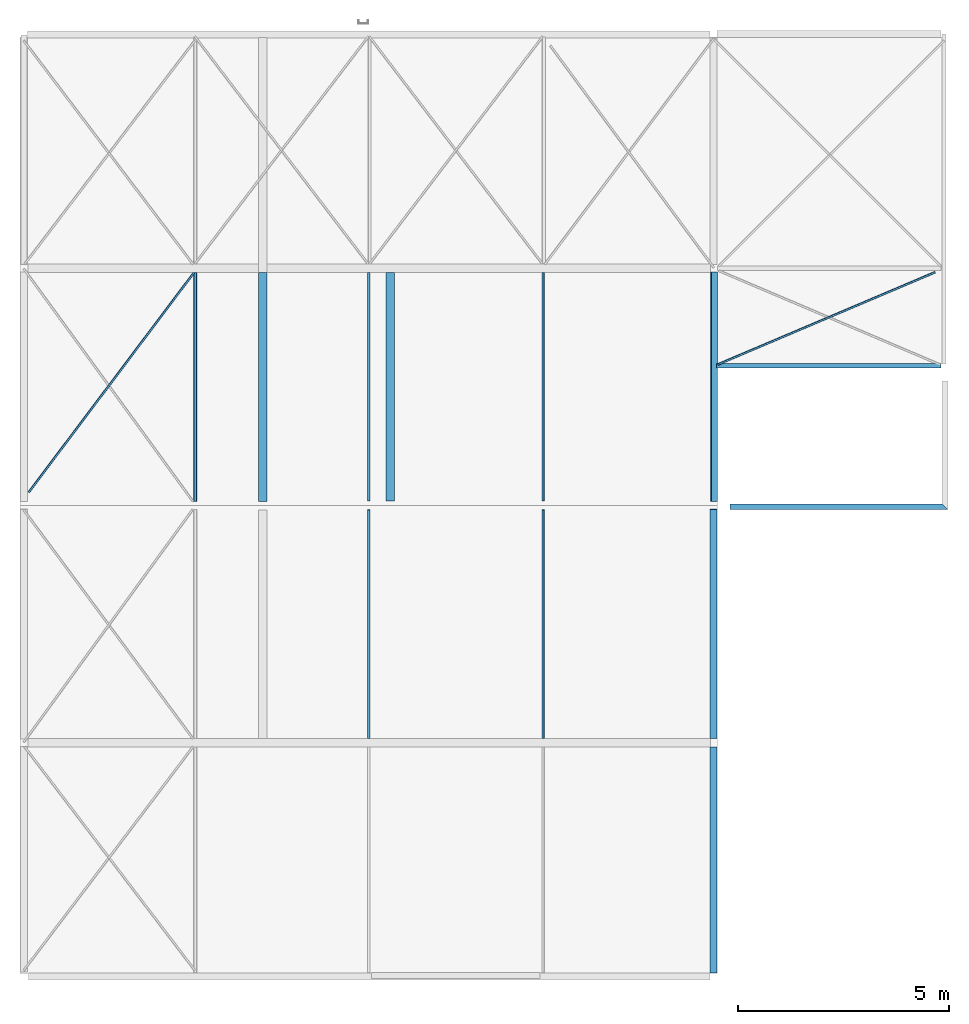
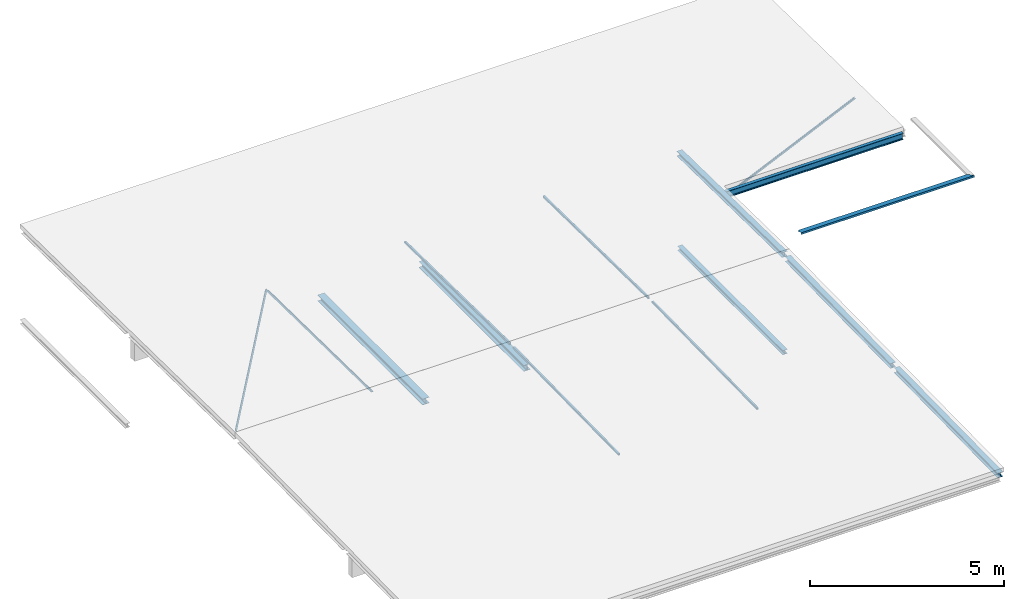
# One storey, part 2 of 5: 15 beams.
"""IFC2X3 building model written with IfcOpenShell, lengths in millimetres."""

from ifc_helpers import new_model, entity, si_unit, converted_unit, derived_unit, direction, frame, frame_2d, origin, place, context, subcontext, project, spatial, polyline, circle_curve, parameter, trimmed, segment, composite_curve, i_section, outline, extrude, clip, halfspace, material, type_object, element, save


model = new_model("IFC2X3")

# Units and contexts
model_context = context("Model", 3, precision=0.01, world=origin(), true_north=direction((6.123031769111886e-17, 1.0)))
plan_context = context("Plan", 3, precision=0.01, world=origin(), true_north=direction((6.123031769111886e-17, 1.0)))
body_context = subcontext(model_context, "Body", "Model", "MODEL_VIEW")
ifc_project = project(units=[si_unit("LENGTHUNIT", "METRE", prefix="MILLI"), si_unit("AREAUNIT", "SQUARE_METRE"), si_unit("VOLUMEUNIT", "CUBIC_METRE"), converted_unit("PLANEANGLEUNIT", "DEGREE", entity("IfcPlaneAngleMeasure", 0.017453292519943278), si_unit("PLANEANGLEUNIT", "RADIAN"), dimensions=[0, 0, 0, 0, 0, 0, 0]), si_unit("MASSUNIT", "GRAM", prefix="KILO"), derived_unit("MASSDENSITYUNIT", [(si_unit("MASSUNIT", "GRAM", prefix="KILO"), 1), (si_unit("LENGTHUNIT", "METRE"), -3)]), derived_unit("IONCONCENTRATIONUNIT", [(si_unit("MASSUNIT", "GRAM", prefix="KILO"), 1), (si_unit("LENGTHUNIT", "METRE"), -3)]), derived_unit("MOMENTOFINERTIAUNIT", [(si_unit("LENGTHUNIT", "METRE"), 4)]), si_unit("TIMEUNIT", "SECOND"), si_unit("FREQUENCYUNIT", "HERTZ"), si_unit("THERMODYNAMICTEMPERATUREUNIT", "DEGREE_CELSIUS"), derived_unit("THERMALTRANSMITTANCEUNIT", [(si_unit("MASSUNIT", "GRAM", prefix="KILO"), 1), (si_unit("THERMODYNAMICTEMPERATUREUNIT", "KELVIN"), -1), (si_unit("TIMEUNIT", "SECOND"), -3)]), derived_unit("THERMALCONDUCTANCEUNIT", [(si_unit("MASSUNIT", "GRAM", prefix="KILO"), 1), (si_unit("THERMODYNAMICTEMPERATUREUNIT", "KELVIN"), -1), (si_unit("TIMEUNIT", "SECOND"), -3), (si_unit("LENGTHUNIT", "METRE"), 1)]), derived_unit("VOLUMETRICFLOWRATEUNIT", [(si_unit("LENGTHUNIT", "METRE", prefix="DECI"), 3), (si_unit("TIMEUNIT", "SECOND"), -1)]), derived_unit("MASSFLOWRATEUNIT", [(si_unit("MASSUNIT", "GRAM", prefix="KILO"), 1), (si_unit("TIMEUNIT", "SECOND"), -1)]), derived_unit("ROTATIONALFREQUENCYUNIT", [(si_unit("TIMEUNIT", "SECOND"), -1)]), si_unit("ELECTRICCURRENTUNIT", "AMPERE"), si_unit("ELECTRICVOLTAGEUNIT", "VOLT"), si_unit("POWERUNIT", "WATT"), si_unit("FORCEUNIT", "NEWTON", prefix="KILO"), si_unit("ILLUMINANCEUNIT", "LUX"), si_unit("LUMINOUSFLUXUNIT", "LUMEN"), si_unit("LUMINOUSINTENSITYUNIT", "CANDELA"), si_unit("ENERGYUNIT", "JOULE"), derived_unit("USERDEFINED", [(si_unit("MASSUNIT", "GRAM", prefix="KILO"), -1), (si_unit("LENGTHUNIT", "METRE"), -2), (si_unit("TIMEUNIT", "SECOND"), 3), (si_unit("LUMINOUSFLUXUNIT", "LUMEN"), 1)]), derived_unit("USERDEFINED", [(si_unit("MASSUNIT", "GRAM", prefix="KILO"), 1), (si_unit("TIMEUNIT", "SECOND"), -3), (si_unit("LENGTHUNIT", "METRE"), 3), (si_unit("ELECTRICCURRENTUNIT", "AMPERE"), -2)]), derived_unit("SOUNDPOWERUNIT", [(si_unit("MASSUNIT", "GRAM", prefix="KILO"), 1), (si_unit("TIMEUNIT", "SECOND"), -3), (si_unit("LENGTHUNIT", "METRE"), 2)]), derived_unit("SOUNDPRESSUREUNIT", [(si_unit("MASSUNIT", "GRAM", prefix="KILO"), 1), (si_unit("LENGTHUNIT", "METRE"), -1), (si_unit("TIMEUNIT", "SECOND"), -2)]), derived_unit("LINEARVELOCITYUNIT", [(si_unit("LENGTHUNIT", "METRE"), 1), (si_unit("TIMEUNIT", "SECOND"), -1)]), si_unit("PRESSUREUNIT", "PASCAL"), derived_unit("USERDEFINED", [(si_unit("MASSUNIT", "GRAM", prefix="KILO"), 1), (si_unit("LENGTHUNIT", "METRE"), -2), (si_unit("TIMEUNIT", "SECOND"), -2)]), derived_unit("LINEARFORCEUNIT", [(si_unit("MASSUNIT", "GRAM", prefix="KILO"), 1), (si_unit("TIMEUNIT", "SECOND"), -2)]), derived_unit("PLANARFORCEUNIT", [(si_unit("MASSUNIT", "GRAM", prefix="KILO"), 1), (si_unit("LENGTHUNIT", "METRE"), -1), (si_unit("TIMEUNIT", "SECOND"), -2)]), derived_unit("SPECIFICHEATCAPACITYUNIT", [(si_unit("THERMODYNAMICTEMPERATUREUNIT", "KELVIN"), -1), (si_unit("LENGTHUNIT", "METRE"), 2), (si_unit("TIMEUNIT", "SECOND"), -2)]), derived_unit("HEATFLUXDENSITYUNIT", [(si_unit("MASSUNIT", "GRAM", prefix="KILO"), 1), (si_unit("TIMEUNIT", "SECOND"), -3)]), derived_unit("HEATINGVALUEUNIT", [(si_unit("LENGTHUNIT", "METRE"), 2), (si_unit("TIMEUNIT", "SECOND"), -2)]), derived_unit("VAPORPERMEABILITYUNIT", [(si_unit("LENGTHUNIT", "METRE"), -1), (si_unit("TIMEUNIT", "SECOND"), 1)]), derived_unit("DYNAMICVISCOSITYUNIT", [(si_unit("MASSUNIT", "GRAM", prefix="KILO"), 1), (si_unit("TIMEUNIT", "SECOND"), -1), (si_unit("LENGTHUNIT", "METRE"), -1)]), derived_unit("THERMALEXPANSIONCOEFFICIENTUNIT", [(si_unit("THERMODYNAMICTEMPERATUREUNIT", "KELVIN"), -1)]), derived_unit("MODULUSOFELASTICITYUNIT", [(si_unit("MASSUNIT", "GRAM", prefix="KILO"), 1), (si_unit("LENGTHUNIT", "METRE"), -1), (si_unit("TIMEUNIT", "SECOND"), -2)]), derived_unit("ISOTHERMALMOISTURECAPACITYUNIT", [(si_unit("MASSUNIT", "GRAM", prefix="KILO"), -1), (si_unit("LENGTHUNIT", "METRE"), 3)]), derived_unit("MOISTUREDIFFUSIVITYUNIT", [(si_unit("TIMEUNIT", "SECOND"), -1), (si_unit("LENGTHUNIT", "METRE"), 2)]), derived_unit("MASSPERLENGTHUNIT", [(si_unit("MASSUNIT", "GRAM", prefix="KILO"), 1), (si_unit("LENGTHUNIT", "METRE"), -1)]), derived_unit("THERMALRESISTANCEUNIT", [(si_unit("MASSUNIT", "GRAM", prefix="KILO"), -1), (si_unit("TIMEUNIT", "SECOND"), 3), (si_unit("THERMODYNAMICTEMPERATUREUNIT", "KELVIN"), 1)]), derived_unit("ACCELERATIONUNIT", [(si_unit("LENGTHUNIT", "METRE"), 1), (si_unit("TIMEUNIT", "SECOND"), -2)]), derived_unit("ANGULARVELOCITYUNIT", [(si_unit("TIMEUNIT", "SECOND"), -1), (si_unit("PLANEANGLEUNIT", "RADIAN"), 1)]), derived_unit("LINEARSTIFFNESSUNIT", [(si_unit("MASSUNIT", "GRAM", prefix="KILO"), 1), (si_unit("TIMEUNIT", "SECOND"), -2)]), derived_unit("WARPINGCONSTANTUNIT", [(si_unit("LENGTHUNIT", "METRE"), 6)]), derived_unit("LINEARMOMENTUNIT", [(si_unit("MASSUNIT", "GRAM", prefix="KILO"), 1), (si_unit("LENGTHUNIT", "METRE"), 1), (si_unit("TIMEUNIT", "SECOND"), -2)]), derived_unit("TORQUEUNIT", [(si_unit("MASSUNIT", "GRAM", prefix="KILO"), 1), (si_unit("LENGTHUNIT", "METRE"), 2), (si_unit("TIMEUNIT", "SECOND"), -2)])], contexts=[model_context, plan_context])

# Site, building, storey
site_placement = place(None, origin())
site = spatial("IfcSite", under=ifc_project, at=site_placement, Name="Default", CompositionType="ELEMENT")
building_placement = place(site_placement, origin())
building = spatial("IfcBuilding", under=site, at=building_placement, CompositionType="ELEMENT")
storey_placement = place(building_placement, frame((0.0, 0.0, 6700.0)))
storey = spatial("IfcBuildingStorey", under=building, at=storey_placement, Name="02 tweede verdieping", CompositionType="ELEMENT", Elevation=6700.000000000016)

# Beams
ifc_material_1 = material(Name="constructiestaal S235")
beam_type_1 = type_object("IfcBeamType", Name="28_SF_LIB_HEA ligger_dw:HE160A (S235)", PredefinedType="NOTDEFINED")
beam_1_placement = place(storey_placement, frame((50506.19293735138, 27593.86409632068, 175.87025940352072), z_axis=(0.0, 0.01570731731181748, 0.9998766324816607), x_axis=(0.0, 0.9998766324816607, -0.01570731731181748)))
element("IfcBeam", 1, at=beam_1_placement, inside=storey, type_object=beam_type_1, material=ifc_material_1, Name="28_SF_LIB_HEA ligger_dw:HE160A (S235)", ObjectType="28_SF_LIB_HEA ligger_dw:HE160A (S235)", context=body_context, shape_type="SweptSolid", body=[
    extrude(i_section(OverallWidth=160.00000000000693, OverallDepth=152.000000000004, WebThickness=5.999999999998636, FlangeThickness=9.00000000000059, FilletRadius=14.999999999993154, at=frame_2d((5.400124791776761e-13, 8.661515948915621e-12), x_axis=(0.0, 1.0))), frame((0.0, 0.0, -76.0), z_axis=(1.0, 0.0, 0.0), x_axis=(0.0, 0.0, -1.0)), (0.0, 0.0, 1.0), 5430.669968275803),
])
beam_2_placement = place(storey_placement, frame((50491.19293735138, 21971.47658408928, 90.7260955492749), z_axis=(0.0, -0.01570731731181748, 0.9998766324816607), x_axis=(0.0, 0.9998766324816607, 0.01570731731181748)))
element("IfcBeam", 2, at=beam_2_placement, inside=storey, type_object=beam_type_1, material=ifc_material_1, Name="28_SF_LIB_HEA ligger_dw:HE160A (S235)", ObjectType="28_SF_LIB_HEA ligger_dw:HE160A (S235)", context=body_context, shape_type="SweptSolid", body=[
    extrude(i_section(OverallWidth=160.00000000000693, OverallDepth=152.00000000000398, WebThickness=5.999999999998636, FlangeThickness=9.00000000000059, FilletRadius=14.99999999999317, at=frame_2d((2.1600499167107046e-12, 8.661515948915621e-12), x_axis=(0.0, 1.0))), frame((0.0, 0.0, -76.0), z_axis=(1.0, 0.0, 0.0), x_axis=(0.0, 0.0, -1.0)), (0.0, 0.0, 1.0), 5430.669968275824),
])
beam_3_placement = place(storey_placement, frame((50491.192937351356, 16441.47670747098, 3.8539155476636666), z_axis=(0.0, -0.01570731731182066, 0.9998766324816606), x_axis=(0.0, 0.9998766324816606, 0.01570731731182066)))
element("IfcBeam", 3, at=beam_3_placement, inside=storey, type_object=beam_type_1, material=ifc_material_1, Name="28_SF_LIB_HEA ligger_dw:HE160A (S235)", ObjectType="28_SF_LIB_HEA ligger_dw:HE160A (S235)", context=body_context, shape_type="SweptSolid", body=[
    extrude(i_section(OverallWidth=160.00000000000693, OverallDepth=152.00000000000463, WebThickness=5.999999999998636, FlangeThickness=9.000000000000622, FilletRadius=14.999999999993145, at=frame_2d((1.6200374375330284e-12, 1.7330137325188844e-11), x_axis=(0.0, 1.0))), frame((-18.952749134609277, 0.0, -76.0), z_axis=(1.0, 0.0, 0.0), x_axis=(0.0, 0.0, -1.0)), (0.0, 0.0, 1.0), 5349.610255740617),
])
beam_type_2 = type_object("IfcBeamType", Name="28_SF_LIB_L ligger gelijkbenig_dw:L80x80x6 (S235)", PredefinedType="NOTDEFINED")
beam_4_placement = place(storey_placement, frame((38196.192937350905, 27594.271521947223, 181.86459934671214), z_axis=(0.0, 0.015707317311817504, 0.9998766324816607), x_axis=(0.0, 0.9998766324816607, -0.015707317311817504)))
element("IfcBeam", 4, at=beam_4_placement, inside=storey, type_object=beam_type_2, material=ifc_material_1, Name="28_SF_LIB_L ligger gelijkbenig_dw:L80x80x6 (S235)", ObjectType="28_SF_LIB_L ligger gelijkbenig_dw:L80x80x6 (S235)", context=body_context, shape_type="SweptSolid", body=[
    extrude(outline(composite_curve([segment(polyline([(28.333333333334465, -50.66666666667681), (29.333333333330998, -50.66666666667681)]), True, "CONTINUOUS"), segment(polyline([(29.333333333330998, -50.66666666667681), (29.333333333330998, 29.333333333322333)]), True, "CONTINUOUS"), segment(polyline([(29.333333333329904, 29.333333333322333), (-50.66666666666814, 29.333333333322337)]), True, "CONTINUOUS"), segment(polyline([(-50.66666666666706, 29.333333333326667), (-50.66666666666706, 28.333333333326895)]), True, "CONTINUOUS"), segment(trimmed(circle_curve(frame_2d((-45.66666666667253, 28.333333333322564), x_axis=(-1.0, 0.0)), 4.999999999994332), [parameter(0.0)], [parameter(90.00000000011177)], True, "PARAMETER"), True, "CONTINUOUS"), segment(polyline([(-45.66666666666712, 23.333333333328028), (13.333333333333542, 23.333333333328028)]), True, "CONTINUOUS"), segment(trimmed(circle_curve(frame_2d((13.333333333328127, 13.33333333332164), x_axis=(0.0, 1.0)), 10.000000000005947), [parameter(270.00000000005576)], [parameter(0.0)], True, "PARAMETER"), False, "CONTINUOUS"), segment(polyline([(23.333333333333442, 13.333333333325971), (23.333333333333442, -45.66666666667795)]), True, "CONTINUOUS"), segment(trimmed(circle_curve(frame_2d((28.33333333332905, -45.66666666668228), x_axis=(-1.0, 0.0)), 4.999999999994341), [parameter(0.0)], [parameter(90.00000000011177)], True, "PARAMETER"), True, "CONTINUOUS")], self_intersect=False)), frame((0.0, -6.793418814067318, -83.21666666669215), z_axis=(1.0, 0.0, 0.0), x_axis=(0.0, 0.0, -1.0)), (0.0, 0.0, 1.0), 5420.0),
])
ifc_material_2 = material(Name="constructiestaal S275")
beam_type_3 = type_object("IfcBeamType", Name="28_SF_LIB_koker ligger_dw:K60x60x6 (S275)", PredefinedType="NOTDEFINED")
beam_5_placement = place(storey_placement, frame((42326.192937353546, 27594.271521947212, 181.86459934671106), z_axis=(0.0, 0.01570731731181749, 0.9998766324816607), x_axis=(0.0, 0.9998766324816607, -0.01570731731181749)))
element("IfcBeam", 5, at=beam_5_placement, inside=storey, type_object=beam_type_3, material=ifc_material_2, Name="28_SF_LIB_koker ligger_dw:K60x60x6 (S275)", ObjectType="28_SF_LIB_koker ligger_dw:K60x60x6 (S275)", context=body_context, shape_type="SweptSolid", body=[
    extrude(outline(composite_curve([segment(polyline([(-22.50000000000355, -30.0), (22.499999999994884, -30.0)]), True, "CONTINUOUS"), segment(trimmed(circle_curve(frame_2d((22.499999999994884, -22.500000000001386), x_axis=(1.0, 0.0)), 7.5), [parameter(269.9999999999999)], [parameter(0.0)], True, "PARAMETER"), True, "CONTINUOUS"), segment(polyline([(30.0, -22.500000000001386), (30.0, 22.49999999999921)]), True, "CONTINUOUS"), segment(trimmed(circle_curve(frame_2d((22.499999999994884, 22.49999999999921), x_axis=(0.0, 1.0)), 7.5), [parameter(269.9999999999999)], [parameter(359.99999999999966)], True, "PARAMETER"), True, "CONTINUOUS"), segment(polyline([(22.499999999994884, 30.0), (-22.50000000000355, 30.0)]), True, "CONTINUOUS"), segment(trimmed(circle_curve(frame_2d((-22.50000000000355, 22.49999999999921), x_axis=(-1.0, 0.0)), 7.5), [parameter(269.9999999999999)], [parameter(359.99999999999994)], True, "PARAMETER"), True, "CONTINUOUS"), segment(polyline([(-30.0, 22.49999999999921), (-30.0, -22.500000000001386)]), True, "CONTINUOUS"), segment(trimmed(circle_curve(frame_2d((-22.50000000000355, -22.500000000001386), x_axis=(0.0, -1.0)), 7.5), [parameter(269.9999999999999)], [parameter(359.99999999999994)], True, "PARAMETER"), True, "CONTINUOUS")], self_intersect=False), holes=[composite_curve([segment(trimmed(circle_curve(frame_2d((-18.0, -18.0), x_axis=(-1.0, 0.0)), 6.0), [parameter(5.088887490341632e-14)], [parameter(90.00000000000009)], True, "PARAMETER"), False, "CONTINUOUS"), segment(polyline([(-24.0, -18.0), (-24.0, 18.0)]), True, "CONTINUOUS"), segment(trimmed(circle_curve(frame_2d((-18.0, 18.0), x_axis=(0.0, 1.0)), 6.0), [parameter(0.0)], [parameter(90.00000000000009)], True, "PARAMETER"), False, "CONTINUOUS"), segment(polyline([(-18.0, 24.0), (18.0, 24.0)]), True, "CONTINUOUS"), segment(trimmed(circle_curve(frame_2d((18.0, 18.0), x_axis=(1.0, 0.0)), 6.0), [parameter(0.0)], [parameter(90.00000000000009)], True, "PARAMETER"), False, "CONTINUOUS"), segment(polyline([(24.0, 18.0), (24.0, -18.0)]), True, "CONTINUOUS"), segment(trimmed(circle_curve(frame_2d((18.0, -18.0), x_axis=(0.0, -1.0)), 6.0), [parameter(5.088887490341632e-14)], [parameter(90.00000000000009)], True, "PARAMETER"), False, "CONTINUOUS"), segment(polyline([(18.0, -24.0), (-18.0, -24.0)]), True, "CONTINUOUS")], self_intersect=False)]), frame((0.0, -0.01008548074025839, -30.0), z_axis=(1.0, 0.0, 0.0), x_axis=(0.0, -1.0, 0.0)), (0.0, 0.0, 1.0), 5419.999999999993),
])
beam_6_placement = place(storey_placement, frame((42326.19293735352, 21971.737810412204, 96.73093951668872), z_axis=(0.0, -0.01570731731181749, 0.9998766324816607), x_axis=(0.0, 0.9998766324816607, 0.01570731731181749)))
element("IfcBeam", 6, at=beam_6_placement, inside=storey, type_object=beam_type_3, material=ifc_material_2, Name="28_SF_LIB_koker ligger_dw:K60x60x6 (S275)", ObjectType="28_SF_LIB_koker ligger_dw:K60x60x6 (S275)", context=body_context, shape_type="SweptSolid", body=[
    extrude(outline(composite_curve([segment(polyline([(-22.50000000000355, -30.0), (22.499999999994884, -30.0)]), True, "CONTINUOUS"), segment(trimmed(circle_curve(frame_2d((22.499999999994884, -22.49999999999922), x_axis=(1.0, 0.0)), 7.5), [parameter(269.9999999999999)], [parameter(0.0)], True, "PARAMETER"), True, "CONTINUOUS"), segment(polyline([(30.0, -22.49999999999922), (30.0, 22.5000000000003)]), True, "CONTINUOUS"), segment(trimmed(circle_curve(frame_2d((22.499999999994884, 22.5000000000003), x_axis=(0.0, 1.0)), 7.5), [parameter(269.9999999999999)], [parameter(359.99999999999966)], True, "PARAMETER"), True, "CONTINUOUS"), segment(polyline([(22.499999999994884, 30.0), (-22.50000000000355, 30.0)]), True, "CONTINUOUS"), segment(trimmed(circle_curve(frame_2d((-22.50000000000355, 22.5000000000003), x_axis=(-1.0, 0.0)), 7.5), [parameter(269.9999999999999)], [parameter(359.99999999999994)], True, "PARAMETER"), True, "CONTINUOUS"), segment(polyline([(-30.0, 22.5000000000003), (-30.0, -22.49999999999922)]), True, "CONTINUOUS"), segment(trimmed(circle_curve(frame_2d((-22.50000000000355, -22.49999999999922), x_axis=(0.0, -1.0)), 7.5), [parameter(269.9999999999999)], [parameter(359.99999999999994)], True, "PARAMETER"), True, "CONTINUOUS")], self_intersect=False), holes=[composite_curve([segment(trimmed(circle_curve(frame_2d((-18.0, -18.0), x_axis=(-1.0, 0.0)), 6.0), [parameter(5.088887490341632e-14)], [parameter(90.00000000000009)], True, "PARAMETER"), False, "CONTINUOUS"), segment(polyline([(-24.0, -18.0), (-24.0, 18.0)]), True, "CONTINUOUS"), segment(trimmed(circle_curve(frame_2d((-18.0, 18.0), x_axis=(0.0, 1.0)), 6.0), [parameter(0.0)], [parameter(90.00000000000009)], True, "PARAMETER"), False, "CONTINUOUS"), segment(polyline([(-18.0, 24.0), (18.0, 24.0)]), True, "CONTINUOUS"), segment(trimmed(circle_curve(frame_2d((18.0, 18.0), x_axis=(1.0, 0.0)), 6.0), [parameter(0.0)], [parameter(90.00000000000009)], True, "PARAMETER"), False, "CONTINUOUS"), segment(polyline([(24.0, 18.0), (24.0, -18.0)]), True, "CONTINUOUS"), segment(trimmed(circle_curve(frame_2d((18.0, -18.0), x_axis=(0.0, -1.0)), 6.0), [parameter(5.088887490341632e-14)], [parameter(90.00000000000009)], True, "PARAMETER"), False, "CONTINUOUS"), segment(polyline([(18.0, -24.0), (-18.0, -24.0)]), True, "CONTINUOUS")], self_intersect=False)]), frame((0.0, -0.01008548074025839, -30.0), z_axis=(1.0, 0.0, 0.0), x_axis=(0.0, -1.0, 0.0)), (0.0, 0.0, 1.0), 5419.999999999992),
])
beam_7_placement = place(storey_placement, frame((46456.19293735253, 27594.13015899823, 175.86607975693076), z_axis=(0.0, 0.015707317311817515, 0.9998766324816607), x_axis=(0.0, 0.9998766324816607, -0.015707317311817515)))
element("IfcBeam", 7, at=beam_7_placement, inside=storey, type_object=beam_type_3, material=ifc_material_2, Name="28_SF_LIB_koker ligger_dw:K60x60x6 (S275)", ObjectType="28_SF_LIB_koker ligger_dw:K60x60x6 (S275)", context=body_context, shape_type="SweptSolid", body=[
    extrude(outline(composite_curve([segment(polyline([(-22.50000000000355, -30.0), (22.499999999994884, -30.0)]), True, "CONTINUOUS"), segment(trimmed(circle_curve(frame_2d((22.499999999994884, -22.5000000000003), x_axis=(1.0, 0.0)), 7.5), [parameter(269.9999999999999)], [parameter(0.0)], True, "PARAMETER"), True, "CONTINUOUS"), segment(polyline([(30.0, -22.5000000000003), (30.0, 22.5000000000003)]), True, "CONTINUOUS"), segment(trimmed(circle_curve(frame_2d((22.499999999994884, 22.5000000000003), x_axis=(0.0, 1.0)), 7.5), [parameter(269.9999999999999)], [parameter(359.99999999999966)], True, "PARAMETER"), True, "CONTINUOUS"), segment(polyline([(22.499999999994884, 30.0), (-22.50000000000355, 30.0)]), True, "CONTINUOUS"), segment(trimmed(circle_curve(frame_2d((-22.50000000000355, 22.5000000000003), x_axis=(-1.0, 0.0)), 7.5), [parameter(269.9999999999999)], [parameter(359.99999999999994)], True, "PARAMETER"), True, "CONTINUOUS"), segment(polyline([(-30.0, 22.5000000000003), (-30.0, -22.5000000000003)]), True, "CONTINUOUS"), segment(trimmed(circle_curve(frame_2d((-22.50000000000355, -22.5000000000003), x_axis=(0.0, -1.0)), 7.5), [parameter(269.9999999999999)], [parameter(359.99999999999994)], True, "PARAMETER"), True, "CONTINUOUS")], self_intersect=False), holes=[composite_curve([segment(trimmed(circle_curve(frame_2d((-18.0, -18.0), x_axis=(-1.0, 0.0)), 6.0), [parameter(5.088887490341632e-14)], [parameter(90.00000000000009)], True, "PARAMETER"), False, "CONTINUOUS"), segment(polyline([(-24.0, -18.0), (-24.0, 18.0)]), True, "CONTINUOUS"), segment(trimmed(circle_curve(frame_2d((-18.0, 18.0), x_axis=(0.0, 1.0)), 6.0), [parameter(0.0)], [parameter(90.00000000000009)], True, "PARAMETER"), False, "CONTINUOUS"), segment(polyline([(-18.0, 24.0), (18.0, 24.0)]), True, "CONTINUOUS"), segment(trimmed(circle_curve(frame_2d((18.0, 18.0), x_axis=(1.0, 0.0)), 6.0), [parameter(0.0)], [parameter(90.00000000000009)], True, "PARAMETER"), False, "CONTINUOUS"), segment(polyline([(24.0, 18.0), (24.0, -18.0)]), True, "CONTINUOUS"), segment(trimmed(circle_curve(frame_2d((18.0, -18.0), x_axis=(0.0, -1.0)), 6.0), [parameter(5.088887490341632e-14)], [parameter(90.00000000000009)], True, "PARAMETER"), False, "CONTINUOUS"), segment(polyline([(18.0, -24.0), (-18.0, -24.0)]), True, "CONTINUOUS")], self_intersect=False)]), frame((0.0, -0.01008548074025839, -30.0), z_axis=(1.0, 0.0, 0.0), x_axis=(0.0, -1.0, 0.0)), (0.0, 0.0, 1.0), 5419.999999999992),
])
beam_8_placement = place(storey_placement, frame((46456.1929373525, 21971.879173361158, 90.73241992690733), z_axis=(0.0, -0.015707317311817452, 0.9998766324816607), x_axis=(0.0, 0.9998766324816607, 0.015707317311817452)))
element("IfcBeam", 8, at=beam_8_placement, inside=storey, type_object=beam_type_3, material=ifc_material_2, Name="28_SF_LIB_koker ligger_dw:K60x60x6 (S275)", ObjectType="28_SF_LIB_koker ligger_dw:K60x60x6 (S275)", context=body_context, shape_type="SweptSolid", body=[
    extrude(outline(composite_curve([segment(polyline([(-22.50000000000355, -30.0), (22.499999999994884, -30.0)]), True, "CONTINUOUS"), segment(trimmed(circle_curve(frame_2d((22.499999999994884, -22.49999999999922), x_axis=(1.0, 0.0)), 7.5), [parameter(269.9999999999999)], [parameter(0.0)], True, "PARAMETER"), True, "CONTINUOUS"), segment(polyline([(30.0, -22.49999999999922), (30.0, 22.5000000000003)]), True, "CONTINUOUS"), segment(trimmed(circle_curve(frame_2d((22.499999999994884, 22.5000000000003), x_axis=(0.0, 1.0)), 7.5), [parameter(269.9999999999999)], [parameter(359.99999999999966)], True, "PARAMETER"), True, "CONTINUOUS"), segment(polyline([(22.499999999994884, 30.0), (-22.50000000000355, 30.0)]), True, "CONTINUOUS"), segment(trimmed(circle_curve(frame_2d((-22.50000000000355, 22.5000000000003), x_axis=(-1.0, 0.0)), 7.5), [parameter(269.9999999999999)], [parameter(359.99999999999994)], True, "PARAMETER"), True, "CONTINUOUS"), segment(polyline([(-30.0, 22.5000000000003), (-30.0, -22.49999999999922)]), True, "CONTINUOUS"), segment(trimmed(circle_curve(frame_2d((-22.50000000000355, -22.49999999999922), x_axis=(0.0, -1.0)), 7.5), [parameter(269.9999999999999)], [parameter(359.99999999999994)], True, "PARAMETER"), True, "CONTINUOUS")], self_intersect=False), holes=[composite_curve([segment(trimmed(circle_curve(frame_2d((-18.0, -18.0), x_axis=(-1.0, 0.0)), 6.0), [parameter(5.088887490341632e-14)], [parameter(90.00000000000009)], True, "PARAMETER"), False, "CONTINUOUS"), segment(polyline([(-24.0, -18.0), (-24.0, 18.0)]), True, "CONTINUOUS"), segment(trimmed(circle_curve(frame_2d((-18.0, 18.0), x_axis=(0.0, 1.0)), 6.0), [parameter(0.0)], [parameter(90.00000000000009)], True, "PARAMETER"), False, "CONTINUOUS"), segment(polyline([(-18.0, 24.0), (18.0, 24.0)]), True, "CONTINUOUS"), segment(trimmed(circle_curve(frame_2d((18.0, 18.0), x_axis=(1.0, 0.0)), 6.0), [parameter(0.0)], [parameter(90.00000000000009)], True, "PARAMETER"), False, "CONTINUOUS"), segment(polyline([(24.0, 18.0), (24.0, -18.0)]), True, "CONTINUOUS"), segment(trimmed(circle_curve(frame_2d((18.0, -18.0), x_axis=(0.0, -1.0)), 6.0), [parameter(5.088887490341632e-14)], [parameter(90.00000000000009)], True, "PARAMETER"), False, "CONTINUOUS"), segment(polyline([(18.0, -24.0), (-18.0, -24.0)]), True, "CONTINUOUS")], self_intersect=False)]), frame((0.0, -0.01008548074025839, -30.0), z_axis=(1.0, 0.0, 0.0), x_axis=(0.0, -1.0, 0.0)), (0.0, 0.0, 1.0), 5419.999999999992),
])
beam_type_4 = type_object("IfcBeamType", Name="28_SF_LIB_HEA ligger_dw:HE200A (S235)", PredefinedType="NOTDEFINED")
for number, where, z_axis, x_axis in (
    (9, (39813.69495124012, 27592.67034020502, -685.0), (0.0, 0.0, 1.0), (0.0, 1.0, 0.0)),
    (10, (42831.31222129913, 27593.130137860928, -685.0), (0.0, 0.0, 1.0), (0.0, 1.0, 0.0)),
):
    element("IfcBeam", number, at=place(storey_placement, frame(where, z_axis=z_axis, x_axis=x_axis)), inside=storey, type_object=beam_type_4, material=ifc_material_1, Name="28_SF_LIB_HEA ligger_dw:HE200A (S235)", ObjectType="28_SF_LIB_HEA ligger_dw:HE200A (S235)", context=body_context, shape_type="SweptSolid", body=[
        extrude(i_section(OverallWidth=200.0000000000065, OverallDepth=190.00000000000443, WebThickness=6.499999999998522, FlangeThickness=9.999999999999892, FilletRadius=17.999999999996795, at=frame_2d((1.0871303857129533e-12, 4.334310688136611e-12), x_axis=(0.0, 1.0))), frame((0.0, 0.0, -95.0), z_axis=(1.0, 0.0, 0.0), x_axis=(0.0, 0.0, -1.0)), (0.0, 0.0, 1.0), 5419.044547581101),
    ])
beam_type_5 = type_object("IfcBeamType", Name="28_SF_LIB_IPE ligger_dw:IPE200 (S235)", PredefinedType="NOTDEFINED")
beam_9_placement = place(storey_placement, frame((50567.19293735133, 30802.670340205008, 123.85391371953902)))
element("IfcBeam", 11, at=beam_9_placement, inside=storey, type_object=beam_type_5, material=ifc_material_1, Name="28_SF_LIB_IPE ligger_dw:IPE200 (S235)", ObjectType="28_SF_LIB_IPE ligger_dw:IPE200 (S235)", context=body_context, shape_type="SweptSolid", body=[
    extrude(i_section(OverallWidth=100.00000000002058, OverallDepth=200.00000000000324, WebThickness=5.5999999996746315, FlangeThickness=8.500000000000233, FilletRadius=12.00000000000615, at=frame_2d((5.400124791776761e-13, -6.497913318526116e-12), x_axis=(0.0, 1.0))), frame((0.0, -0.010085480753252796, -100.0), z_axis=(1.0, 0.0, 0.0), x_axis=(0.0, 0.0, -1.0)), (0.0, 0.0, 1.0), 5308.000000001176),
])
beam_type_6 = type_object("IfcBeamType", Name="28_SF_LIB_HEA ligger_dw:HE140A (S235)", PredefinedType="NOTDEFINED")
beam_10_placement = place(storey_placement, frame((50516.192937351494, 33022.67034020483, -2910.0), z_axis=(0.0, 0.0, 1.0), x_axis=(0.0, -1.0, 0.0)))
element("IfcBeam", 12, at=beam_10_placement, inside=storey, type_object=beam_type_6, material=ifc_material_1, Name="28_SF_LIB_HEA ligger_dw:HE140A (S235)", ObjectType="28_SF_LIB_HEA ligger_dw:HE140A (S235)", context=body_context, shape_type="SweptSolid", body=[
    extrude(i_section(OverallWidth=139.99999999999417, OverallDepth=133.00000000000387, WebThickness=5.4999999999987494, FlangeThickness=8.500000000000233, FilletRadius=11.99999999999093, at=frame_2d((0.0, -4.32720526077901e-12), x_axis=(0.0, 1.0))), frame((0.0, 0.0, -66.4999999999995), z_axis=(1.0, 0.0, 0.0), x_axis=(0.0, 0.0, -1.0)), (0.0, 0.0, 1.0), 5439.9999999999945),
])
beam_type_7 = type_object("IfcBeamType", Name="28_SF_LIB_L ligger gelijkbenig_dw:L50x50x5 (S235)", PredefinedType="NOTDEFINED")
beam_11_placement = place(storey_placement, frame((34161.182851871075, 27679.408404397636, 98.51704493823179), z_axis=(0.00556479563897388, 0.007396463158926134, 0.9999571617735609), x_axis=(0.6011800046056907, 0.7990600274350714, -0.009256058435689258)))
element("IfcBeam", 13, at=beam_11_placement, inside=storey, type_object=beam_type_7, material=ifc_material_1, Name="28_SF_LIB_L ligger gelijkbenig_dw:L50x50x5 (S235)", ObjectType="28_SF_LIB_L ligger gelijkbenig_dw:L50x50x5 (S235)", context=body_context, shape_type="SweptSolid", body=[
    extrude(outline(composite_curve([segment(polyline([(17.38888888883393, -31.11111111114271), (18.88888888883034, -31.111111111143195)]), True, "CONTINUOUS"), segment(polyline([(18.88888888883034, -31.111111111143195), (18.8888888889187, 18.888888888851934)]), True, "CONTINUOUS"), segment(polyline([(18.8888888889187, 18.888888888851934), (-31.11111111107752, 18.88888888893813)]), True, "CONTINUOUS"), segment(polyline([(-31.11111111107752, 18.88888888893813), (-31.111111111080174, 17.38888888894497)]), True, "CONTINUOUS"), segment(trimmed(circle_curve(frame_2d((-27.61111111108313, 17.388888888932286), x_axis=(-1.0, 0.0)), 3.4999999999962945), [parameter(0.0)], [parameter(90.0000000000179)], True, "PARAMETER"), True, "CONTINUOUS"), segment(polyline([(-27.611111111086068, 13.888888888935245), (6.888888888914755, 13.888888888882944)]), True, "CONTINUOUS"), segment(trimmed(circle_curve(frame_2d((6.888888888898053, 6.888888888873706), x_axis=(0.0, 1.0)), 7.000000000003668), [parameter(270.0000000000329)], [parameter(0.0)], True, "PARAMETER"), False, "CONTINUOUS"), segment(polyline([(13.888888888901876, 6.888888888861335), (13.888888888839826, -27.611111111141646)]), True, "CONTINUOUS"), segment(trimmed(circle_curve(frame_2d((17.38888888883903, -27.61111111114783), x_axis=(-1.0, 0.0)), 3.499999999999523), [parameter(0.0)], [parameter(89.99999999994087)], True, "PARAMETER"), True, "CONTINUOUS")], self_intersect=False)), frame((164.55028307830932, -4.858974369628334, 4.848888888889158), z_axis=(1.0, 0.0, 0.0), x_axis=(0.0, 0.0, -1.0)), (0.0, 0.0, 1.0), 6509.856949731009),
])
beam_12_placement = place(storey_placement, frame((50586.1929373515, 30842.670485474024, 0.0), z_axis=(0.0, 0.0, 1.0), x_axis=(0.9205048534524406, 0.390731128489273, 0.0)))
element("IfcBeam", 14, at=beam_12_placement, inside=storey, type_object=beam_type_7, material=ifc_material_1, Name="28_SF_LIB_L ligger gelijkbenig_dw:L50x50x5 (S235)", ObjectType="28_SF_LIB_L ligger gelijkbenig_dw:L50x50x5 (S235)", context=body_context, shape_type="SweptSolid", body=[
    extrude(outline(composite_curve([segment(polyline([(17.3888888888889, -31.111111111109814), (18.88888888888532, -31.111111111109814)]), True, "CONTINUOUS"), segment(polyline([(18.88888888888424, -31.111111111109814), (18.88888888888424, 18.888888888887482)]), True, "CONTINUOUS"), segment(polyline([(18.88888888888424, 18.888888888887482), (-31.11111111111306, 18.888888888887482)]), True, "CONTINUOUS"), segment(polyline([(-31.11111111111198, 18.888888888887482), (-31.11111111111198, 17.388888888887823)]), True, "CONTINUOUS"), segment(trimmed(circle_curve(frame_2d((-27.611111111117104, 17.38888888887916), x_axis=(-1.0, 0.0)), 3.4999999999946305), [parameter(0.0)], [parameter(90.00000000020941)], True, "PARAMETER"), True, "CONTINUOUS"), segment(polyline([(-27.61111111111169, 13.88888888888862), (6.888888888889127, 13.88888888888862)]), True, "CONTINUOUS"), segment(trimmed(circle_curve(frame_2d((6.888888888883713, 6.888888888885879), x_axis=(0.0, 1.0)), 7.000000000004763), [parameter(270.00000000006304)], [parameter(0.0)], True, "PARAMETER"), False, "CONTINUOUS"), segment(polyline([(13.888888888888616, 6.888888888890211), (13.888888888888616, -27.611111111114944)]), True, "CONTINUOUS"), segment(trimmed(circle_curve(frame_2d((17.38888888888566, -27.611111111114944), x_axis=(-1.0, 0.0)), 3.4999999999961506), [parameter(0.0)], [parameter(90.00000000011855)], True, "PARAMETER"), True, "CONTINUOUS")], self_intersect=False)), frame((0.0, -4.858974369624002, -85.15111111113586), z_axis=(1.0, 0.0, 0.0), x_axis=(0.0, 0.0, -1.0)), (0.0, 0.0, 1.0), 5597.162648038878),
])
beam_type_8 = type_object("IfcBeamType", Name="28_SF_LIB_UNP ligger_dw:UNP140 (S235)", PredefinedType="NOTDEFINED")
beam_13_placement = place(storey_placement, frame((50886.192937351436, 27532.502495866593, 770.0)))
element("IfcBeam", 15, at=beam_13_placement, inside=storey, type_object=beam_type_8, material=ifc_material_1, Name="28_SF_LIB_UNP ligger_dw:UNP140 (S235)", ObjectType="28_SF_LIB_UNP ligger_dw:UNP140 (S235)", context=body_context, shape_type="SweptSolid", body=[
    clip(extrude(outline(composite_curve([segment(polyline([(-33.166666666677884, -69.93760274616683), (26.833333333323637, -69.93760274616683)]), True, "CONTINUOUS"), segment(polyline([(26.833333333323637, -69.9376027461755), (26.833333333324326, -65.16520177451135)]), True, "CONTINUOUS"), segment(trimmed(circle_curve(frame_2d((21.833333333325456, -65.16520177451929), x_axis=(1.0, 0.0)), 4.999999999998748), [parameter(0.0)], [parameter(90.00000000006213)], True, "PARAMETER"), True, "CONTINUOUS"), segment(polyline([(21.833333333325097, -60.165201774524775), (-16.166666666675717, -58.14041273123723)]), True, "CONTINUOUS"), segment(trimmed(circle_curve(frame_2d((-16.166666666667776, -48.14041273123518), x_axis=(0.0, -1.0)), 10.00000000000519), [parameter(270.00000000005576)], [parameter(0.0)], True, "PARAMETER"), False, "CONTINUOUS"), segment(polyline([(-26.16666666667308, -48.14041273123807), (-26.166666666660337, 47.62586063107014)]), True, "CONTINUOUS"), segment(trimmed(circle_curve(frame_2d((-16.16666666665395, 47.62586063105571), x_axis=(-1.0, 0.0)), 10.000000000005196), [parameter(270.00000000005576)], [parameter(0.0)], True, "PARAMETER"), False, "CONTINUOUS"), segment(polyline([(-16.16666666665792, 57.62586063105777), (21.833333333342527, 60.554959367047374)]), True, "CONTINUOUS"), segment(trimmed(circle_curve(frame_2d((21.833333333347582, 65.55495936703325), x_axis=(0.0, -1.0)), 4.999999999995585), [parameter(0.0)], [parameter(90.00000000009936)], True, "PARAMETER"), True, "CONTINUOUS"), segment(polyline([(26.833333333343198, 65.55495936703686), (26.833333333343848, 70.06239725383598)]), True, "CONTINUOUS"), segment(polyline([(26.83333333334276, 70.06239725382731), (-33.16666666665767, 70.06239725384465)]), True, "CONTINUOUS"), segment(polyline([(-33.16666666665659, 70.06239725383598), (-33.166666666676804, -69.93760274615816)]), True, "CONTINUOUS")], self_intersect=False)), frame((0.0, -70.06239725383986, -33.16666666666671), z_axis=(1.0, 0.0, 0.0), x_axis=(0.0, 0.0, -1.0)), (0.0, 0.0, 1.0), 5163.500000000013), halfspace(frame((5023.499999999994, 0.0, 730.0), z_axis=(0.7071067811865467, 0.7071067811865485, 0.0), x_axis=(-0.7071067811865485, 0.7071067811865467, 0.0)), False)),
])

save(model, "model.ifc")
